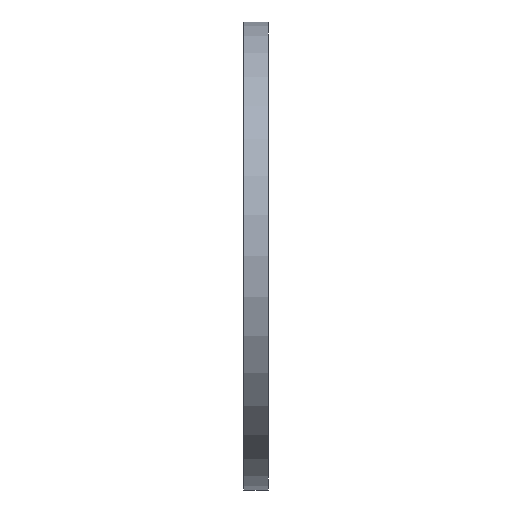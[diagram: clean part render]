
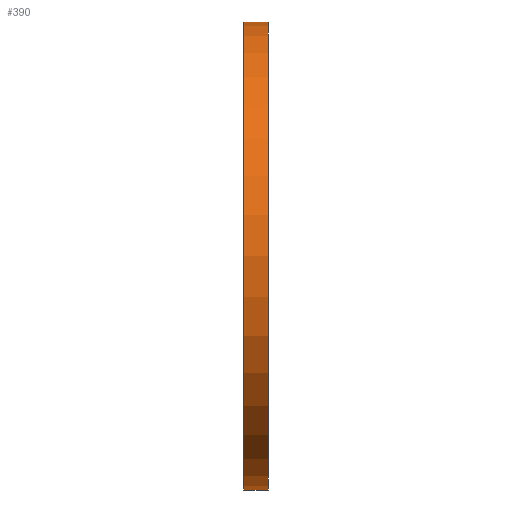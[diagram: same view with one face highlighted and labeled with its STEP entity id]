
A CAD part, left-side view. The second image highlights one B-rep face of the part: STEP entity #390.
In plain terms, the highlighted cylindrical face has radius 142.5 mm (diameter 285 mm), a partial arc.
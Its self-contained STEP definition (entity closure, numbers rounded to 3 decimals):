
#9 = EDGE_LOOP ( 'NONE', ( #330, #772, #471, #136 ) ) ;
#17 = CARTESIAN_POINT ( 'NONE',  ( 0., 38.545, 0. ) ) ;
#103 = AXIS2_PLACEMENT_3D ( 'NONE', #17, #625, #633 ) ;
#133 = VECTOR ( 'NONE', #821, 1000. ) ;
#136 = ORIENTED_EDGE ( 'NONE', *, *, #224, .F. ) ;
#140 = CARTESIAN_POINT ( 'NONE',  ( 0., 15., 142.5 ) ) ;
#148 = VERTEX_POINT ( 'NONE', #783 ) ;
#154 = VERTEX_POINT ( 'NONE', #373 ) ;
#157 = CIRCLE ( 'NONE', #203, 142.5 ) ;
#198 = EDGE_CURVE ( 'NONE', #738, #154, #858, .T. ) ;
#203 = AXIS2_PLACEMENT_3D ( 'NONE', #462, #764, #333 ) ;
#212 = CIRCLE ( 'NONE', #446, 142.5 ) ;
#224 = EDGE_CURVE ( 'NONE', #154, #417, #157, .T. ) ;
#245 = CARTESIAN_POINT ( 'NONE',  ( 0., 0., 0. ) ) ;
#266 = DIRECTION ( 'NONE',  ( 0., 0., 1. ) ) ;
#274 = CARTESIAN_POINT ( 'NONE',  ( 0., 38.545, 142.5 ) ) ;
#282 = VECTOR ( 'NONE', #706, 1000. ) ;
#310 = EDGE_CURVE ( 'NONE', #148, #417, #532, .T. ) ;
#330 = ORIENTED_EDGE ( 'NONE', *, *, #198, .F. ) ;
#333 = DIRECTION ( 'NONE',  ( 0., 0., 1. ) ) ;
#373 = CARTESIAN_POINT ( 'NONE',  ( 0., 15., -142.5 ) ) ;
#383 = DIRECTION ( 'NONE',  ( 0., 1., 0. ) ) ;
#390 = ADVANCED_FACE ( 'NONE', ( #697 ), #425, .T. ) ;
#417 = VERTEX_POINT ( 'NONE', #140 ) ;
#425 = CYLINDRICAL_SURFACE ( 'NONE', #103, 142.5 ) ;
#446 = AXIS2_PLACEMENT_3D ( 'NONE', #245, #383, #266 ) ;
#462 = CARTESIAN_POINT ( 'NONE',  ( 0., 15., 0. ) ) ;
#471 = ORIENTED_EDGE ( 'NONE', *, *, #310, .T. ) ;
#532 = LINE ( 'NONE', #274, #133 ) ;
#625 = DIRECTION ( 'NONE',  ( 0., 1., 0. ) ) ;
#633 = DIRECTION ( 'NONE',  ( 0., 0., 1. ) ) ;
#669 = EDGE_CURVE ( 'NONE', #738, #148, #212, .T. ) ;
#678 = CARTESIAN_POINT ( 'NONE',  ( 0., 0., -142.5 ) ) ;
#697 = FACE_OUTER_BOUND ( 'NONE', #9, .T. ) ;
#706 = DIRECTION ( 'NONE',  ( 0., 1., 0. ) ) ;
#738 = VERTEX_POINT ( 'NONE', #678 ) ;
#764 = DIRECTION ( 'NONE',  ( 0., 1., 0. ) ) ;
#772 = ORIENTED_EDGE ( 'NONE', *, *, #669, .T. ) ;
#774 = CARTESIAN_POINT ( 'NONE',  ( 0., 38.545, -142.5 ) ) ;
#783 = CARTESIAN_POINT ( 'NONE',  ( 0., 0., 142.5 ) ) ;
#821 = DIRECTION ( 'NONE',  ( 0., 1., 0. ) ) ;
#858 = LINE ( 'NONE', #774, #282 ) ;
